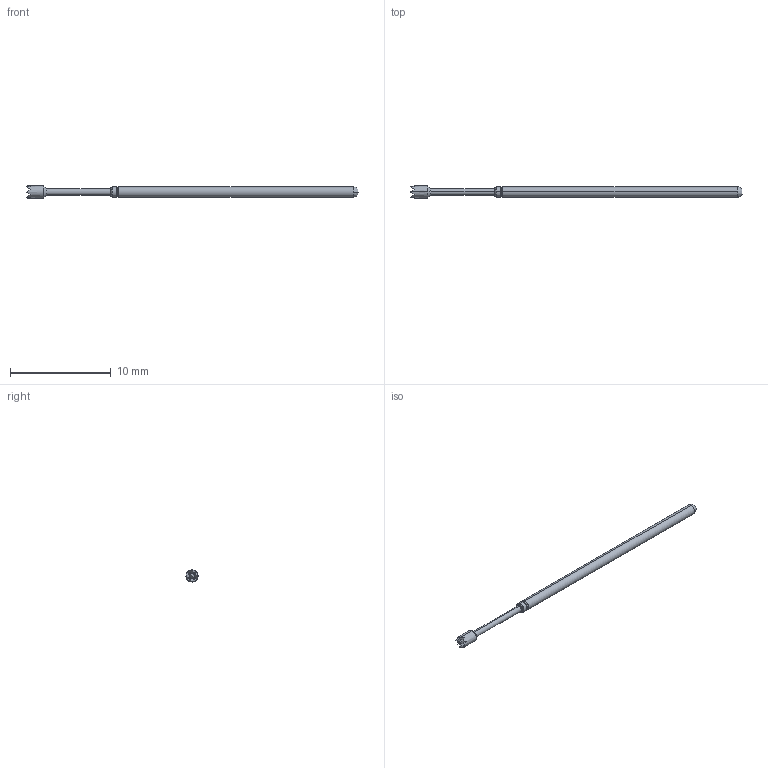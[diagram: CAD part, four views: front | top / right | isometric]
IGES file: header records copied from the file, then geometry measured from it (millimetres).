
Start section: SolidWorks IGES file using analytic representation for surfaces
Global section: file name: Z:\probe solid model mockups\Solidworks models\Parts\LFRE-1H.IGS; native system: SolidWorks 2016; preprocessor: SolidWorks 2016; author: mlee; date: 180927.163134; units: inch
Bounding box: 33.02 x 1.19 x 1.19 mm (x, y, z)
Surface area: 100.4 mm2 (no closed solid volume)
Topology: 0 solids, 0 shells, 50 faces, 246 edges, 246 vertices
Faces by surface type: bspline 34, revolution 16
